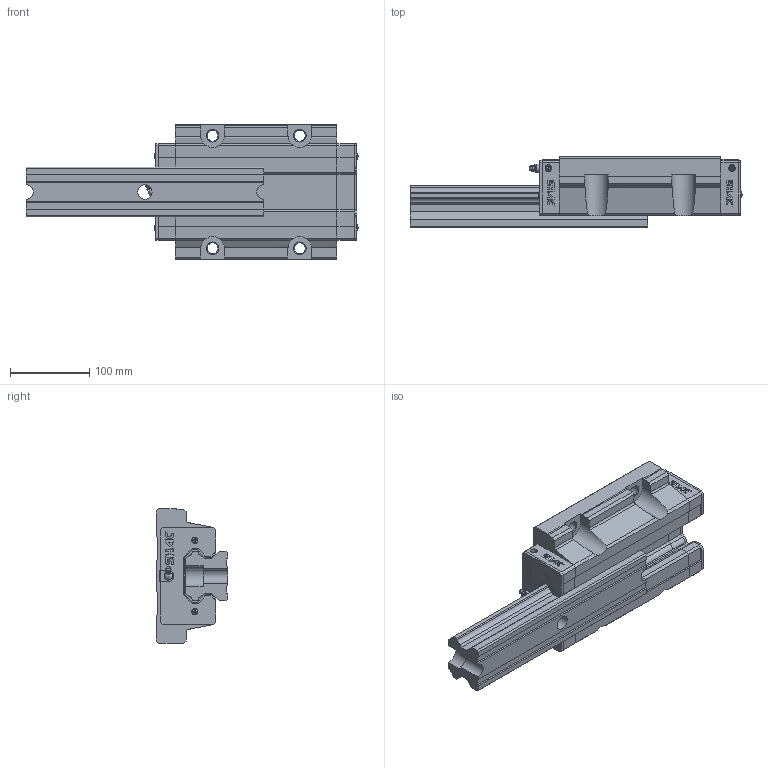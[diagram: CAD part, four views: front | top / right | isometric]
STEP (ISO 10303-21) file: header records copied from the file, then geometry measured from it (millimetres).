
FILE_DESCRIPTION( ( 'STEP AP214' ), '1' );
FILE_NAME( 'F:/品牌/SHAC 台湾鼎翰传动科技有限公司/3D滑块/GHW65HC1R300Z0C-0_0_1_1_.stp', '2025-04-21T22:49:57', ( 'License CC BY-ND 4.0' ), ( 'CADENAS' ), ' ', 'PARTsolutions', ' ' );
FILE_SCHEMA( ( 'AUTOMOTIVE_DESIGN { 1 0 10303 214 1 1 1 1 }' ) );
Length unit declared in the file: millimetre
Products named in the file (8): GHW65HC1R300Z0C-0/0(1_1); _GHR65R300C+RC-0/0(1)_RAIL; _GHW65HC_SLIDER; _GHW65HC_C; _GHW65HC_P; _GH65_SCREW; _GH65_BOLT; _GH65-_G
Assembly tree (12 placements, depth 2):
  GHW65HC1R300Z0C-0/0(1_1)
    _GHR65R300C+RC-0/0(1)_RAIL
    _GHW65HC_SLIDER
    _GHW65HC_C  x2
    _GHW65HC_P  x2
    _GH65_SCREW  x4
    _GH65_BOLT
    _GH65-_G
Bounding box: 418.66 x 90 x 170 mm (x, y, z)
Volume: 2905837.9 mm3; surface area: 300292.8 mm2
Topology: 12 solids, 12 shells, 840 faces, 2254 edges, 1487 vertices
Faces by surface type: plane 684, cylinder 115, cone 26, torus 9, sphere 5, bspline 1
Full cylindrical faces by diameter (mm): 0.992 x4, 4.5 x1, 4.7 x4, 7.35 x2, 7.76 x4, 8 x4, 8.5 x4, 10 x2, 10.5 x2, 13.835 x4, 18 x1, 26 x1
Entity records: 20811 total; most frequent: CARTESIAN_POINT 3126, ORIENTED_EDGE 2760, DIRECTION 2650, EDGE_CURVE 1380, LINE 1120, VECTOR 1120, VERTEX_POINT 933, AXIS2_PLACEMENT_3D 765
